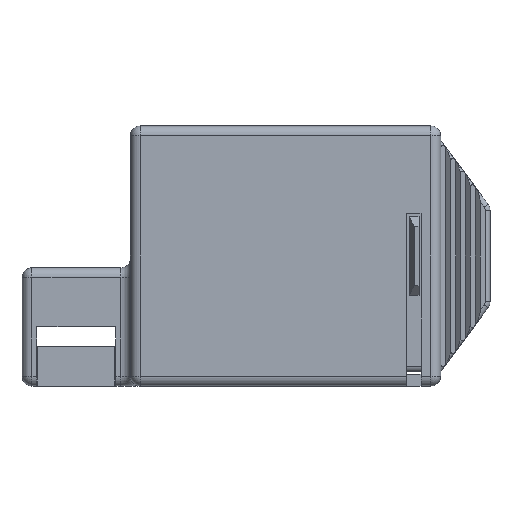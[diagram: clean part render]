
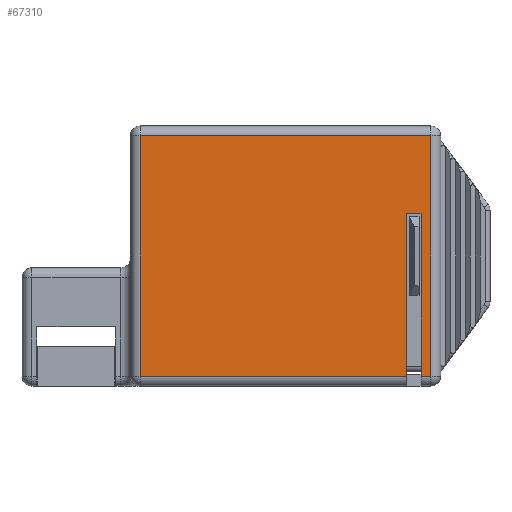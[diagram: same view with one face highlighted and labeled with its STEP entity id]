
A CAD part, left-side view. The second image highlights one B-rep face of the part: STEP entity #67310.
In plain terms, the highlighted planar face has unit normal (-1, 0, 0).
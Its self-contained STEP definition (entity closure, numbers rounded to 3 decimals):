
#11690=CARTESIAN_POINT('',(24.015,33.829,-8.9));
#11700=VERTEX_POINT('',#11690);
#11850=CARTESIAN_POINT('',(24.015,35.329,-8.9));
#11860=VERTEX_POINT('',#11850);
#11890=CARTESIAN_POINT('',(24.015,0.,-8.9));
#11900=DIRECTION('',(0.,1.,0.));
#11910=VECTOR('',#11900,1.);
#11920=LINE('',#11890,#11910);
#11930=EDGE_CURVE('',#11700,#11860,#11920,.T.);
#12080=CARTESIAN_POINT('',(24.015,33.829,-25.4));
#12090=VERTEX_POINT('',#12080);
#12370=CARTESIAN_POINT('',(24.015,33.829,0.));
#12380=DIRECTION('',(0.,0.,1.));
#12390=VECTOR('',#12380,1.);
#12400=LINE('',#12370,#12390);
#12410=EDGE_CURVE('',#12090,#11700,#12400,.T.);
#12960=CARTESIAN_POINT('',(24.015,35.329,-25.4));
#12970=VERTEX_POINT('',#12960);
#13000=CARTESIAN_POINT('',(24.015,35.329,0.));
#13010=DIRECTION('',(0.,0.,-1.));
#13020=VECTOR('',#13010,1.);
#13030=LINE('',#13000,#13020);
#13040=EDGE_CURVE('',#11860,#12970,#13030,.T.);
#31300=CARTESIAN_POINT('',(24.015,62.329,-1.));
#31310=VERTEX_POINT('',#31300);
#31970=CARTESIAN_POINT('',(24.015,32.829,-1.));
#31980=VERTEX_POINT('',#31970);
#32010=CARTESIAN_POINT('',(24.015,0.,-1.));
#32020=DIRECTION('',(0.,-1.,0.));
#32030=VECTOR('',#32020,1.);
#32040=LINE('',#32010,#32030);
#32050=EDGE_CURVE('',#31310,#31980,#32040,.T.);
#58870=CARTESIAN_POINT('',(24.015,0.,-25.4));
#58880=DIRECTION('',(0.,-1.,0.));
#58890=VECTOR('',#58880,1.);
#58900=LINE('',#58870,#58890);
#58910=CARTESIAN_POINT('',(24.015,62.329,-25.4));
#58920=VERTEX_POINT('',#58910);
#58930=EDGE_CURVE('',#58920,#12970,#58900,.T.);
#60440=CARTESIAN_POINT('',(24.015,0.,-25.4));
#60450=DIRECTION('',(0.,-1.,0.));
#60460=VECTOR('',#60450,1.);
#60470=LINE('',#60440,#60460);
#60480=CARTESIAN_POINT('',(24.015,32.829,-25.4));
#60490=VERTEX_POINT('',#60480);
#60500=EDGE_CURVE('',#12090,#60490,#60470,.T.);
#67060=CARTESIAN_POINT('',(24.015,63.029,0.));
#67070=DIRECTION('',(-1.,0.,0.));
#67080=DIRECTION('',(0.,1.,0.));
#67090=AXIS2_PLACEMENT_3D('',#67060,#67070,#67080);
#67100=PLANE('',#67090);
#67110=ORIENTED_EDGE('',*,*,#60500,.T.);
#67120=ORIENTED_EDGE('',*,*,#12410,.F.);
#67130=ORIENTED_EDGE('',*,*,#11930,.F.);
#67140=ORIENTED_EDGE('',*,*,#13040,.F.);
#67150=ORIENTED_EDGE('',*,*,#58930,.T.);
#67160=CARTESIAN_POINT('',(24.015,62.329,0.));
#67170=DIRECTION('',(0.,0.,-1.));
#67180=VECTOR('',#67170,1.);
#67190=LINE('',#67160,#67180);
#67200=EDGE_CURVE('',#31310,#58920,#67190,.T.);
#67210=ORIENTED_EDGE('',*,*,#67200,.T.);
#67220=ORIENTED_EDGE('',*,*,#32050,.F.);
#67230=CARTESIAN_POINT('',(24.015,32.829,0.));
#67240=DIRECTION('',(0.,0.,1.));
#67250=VECTOR('',#67240,1.);
#67260=LINE('',#67230,#67250);
#67270=EDGE_CURVE('',#60490,#31980,#67260,.T.);
#67280=ORIENTED_EDGE('',*,*,#67270,.T.);
#67290=EDGE_LOOP('',(#67280,#67220,#67210,#67150,#67140,#67130,#67120,
#67110));
#67300=FACE_OUTER_BOUND('',#67290,.T.);
#67310=ADVANCED_FACE('',(#67300),#67100,.T.);
